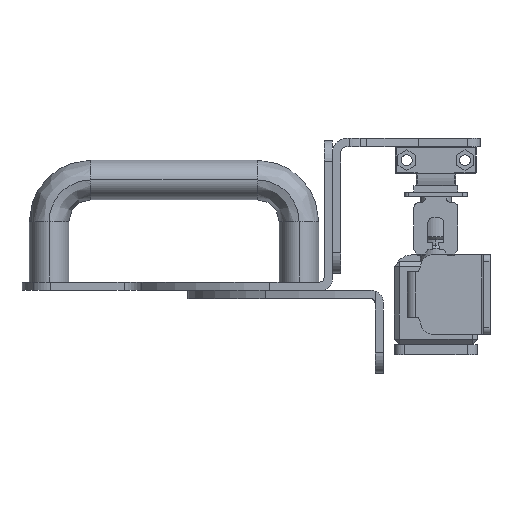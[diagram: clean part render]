
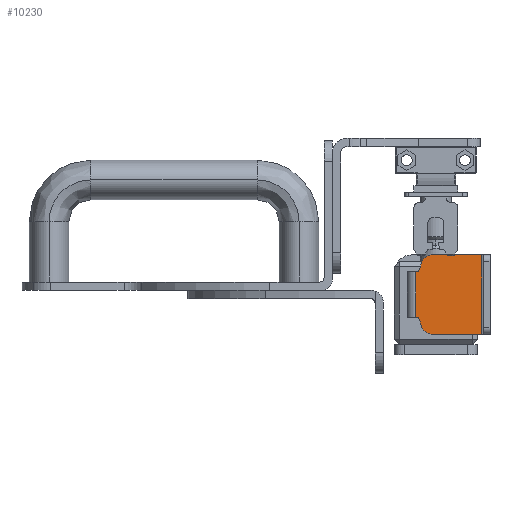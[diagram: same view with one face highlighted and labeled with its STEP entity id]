
A CAD part, front view. The second image highlights one B-rep face of the part: STEP entity #10230.
In plain terms, the highlighted planar face has unit normal (0, -1, 0).
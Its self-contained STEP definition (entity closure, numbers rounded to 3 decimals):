
#7252 = VERTEX_POINT ( 'NONE', #41458 ) ;
#7272 = VERTEX_POINT ( 'NONE', #41478 ) ;
#7329 = VERTEX_POINT ( 'NONE', #41535 ) ;
#7356 = VERTEX_POINT ( 'NONE', #41562 ) ;
#7367 = VERTEX_POINT ( 'NONE', #41573 ) ;
#7375 = VERTEX_POINT ( 'NONE', #41581 ) ;
#7382 = VERTEX_POINT ( 'NONE', #41588 ) ;
#7384 = VERTEX_POINT ( 'NONE', #41590 ) ;
#7401 = VERTEX_POINT ( 'NONE', #41607 ) ;
#7427 = VERTEX_POINT ( 'NONE', #41633 ) ;
#7435 = VERTEX_POINT ( 'NONE', #41641 ) ;
#7467 = VERTEX_POINT ( 'NONE', #41673 ) ;
#8305 = ORIENTED_EDGE ( 'NONE', *, *, #10030, .F. ) ;
#8306 = ORIENTED_EDGE ( 'NONE', *, *, #10032, .T. ) ;
#8307 = ORIENTED_EDGE ( 'NONE', *, *, #9966, .F. ) ;
#8308 = ORIENTED_EDGE ( 'NONE', *, *, #10034, .T. ) ;
#8309 = ORIENTED_EDGE ( 'NONE', *, *, #10036, .F. ) ;
#8310 = ORIENTED_EDGE ( 'NONE', *, *, #10038, .T. ) ;
#8311 = ORIENTED_EDGE ( 'NONE', *, *, #10040, .T. ) ;
#8312 = ORIENTED_EDGE ( 'NONE', *, *, #10042, .T. ) ;
#8313 = ORIENTED_EDGE ( 'NONE', *, *, #10044, .T. ) ;
#8314 = ORIENTED_EDGE ( 'NONE', *, *, #10046, .T. ) ;
#8315 = ORIENTED_EDGE ( 'NONE', *, *, #10048, .F. ) ;
#8316 = ORIENTED_EDGE ( 'NONE', *, *, #10049, .T. ) ;
#9966 = EDGE_CURVE ( 'NONE', #7427, #7382, #21008, .T. ) ;
#10030 = EDGE_CURVE ( 'NONE', #7329, #7272, #15906, .T. ) ;
#10032 = EDGE_CURVE ( 'NONE', #7329, #7382, #15569, .T. ) ;
#10034 = EDGE_CURVE ( 'NONE', #7427, #7252, #15927, .T. ) ;
#10036 = EDGE_CURVE ( 'NONE', #7367, #7252, #15930, .T. ) ;
#10038 = EDGE_CURVE ( 'NONE', #7367, #7467, #15584, .T. ) ;
#10040 = EDGE_CURVE ( 'NONE', #7467, #7384, #15942, .T. ) ;
#10042 = EDGE_CURVE ( 'NONE', #7384, #7435, #15601, .T. ) ;
#10044 = EDGE_CURVE ( 'NONE', #7435, #7401, #15955, .T. ) ;
#10046 = EDGE_CURVE ( 'NONE', #7401, #7356, #15954, .T. ) ;
#10048 = EDGE_CURVE ( 'NONE', #7375, #7356, #15968, .T. ) ;
#10049 = EDGE_CURVE ( 'NONE', #7375, #7272, #15619, .T. ) ;
#10230 = ADVANCED_FACE ( 'NONE', ( #16613 ), #16614, .F. ) ;
#15405 = VECTOR ( 'NONE', #21028, 1000. ) ;
#15564 = VECTOR ( 'NONE', #15917, 1000. ) ;
#15569 = CIRCLE ( 'NONE', #15578, 5. ) ;
#15576 = VECTOR ( 'NONE', #15934, 1000. ) ;
#15578 = AXIS2_PLACEMENT_3D ( 'NONE', #15923, #15924, #15925 ) ;
#15580 = VECTOR ( 'NONE', #15929, 1000. ) ;
#15584 = CIRCLE ( 'NONE', #15594, 5. ) ;
#15589 = VECTOR ( 'NONE', #15946, 1000. ) ;
#15594 = AXIS2_PLACEMENT_3D ( 'NONE', #15939, #15940, #15941 ) ;
#15596 = VECTOR ( 'NONE', #15959, 1000. ) ;
#15601 = CIRCLE ( 'NONE', #15605, 1. ) ;
#15605 = AXIS2_PLACEMENT_3D ( 'NONE', #15951, #15952, #15953 ) ;
#15606 = VECTOR ( 'NONE', #15965, 1000. ) ;
#15612 = VECTOR ( 'NONE', #15972, 1000. ) ;
#15619 = CIRCLE ( 'NONE', #15623, 1. ) ;
#15623 = AXIS2_PLACEMENT_3D ( 'NONE', #15974, #15975, #15976 ) ;
#15906 = LINE ( 'NONE', #15916, #15564 ) ;
#15913 = CARTESIAN_POINT ( 'NONE',  ( -19., -62.3, -15.1 ) ) ;
#15916 = CARTESIAN_POINT ( 'NONE',  ( 76.257, -62.3, 13.952 ) ) ;
#15917 = DIRECTION ( 'NONE',  ( -0.94, 0., -0.342 ) ) ;
#15923 = CARTESIAN_POINT ( 'NONE',  ( 14., -62.3, -3.387 ) ) ;
#15924 = DIRECTION ( 'NONE',  ( 0., -1., 0. ) ) ;
#15925 = DIRECTION ( 'NONE',  ( 0., 0., 1. ) ) ;
#15927 = LINE ( 'NONE', #15928, #15580 ) ;
#15928 = CARTESIAN_POINT ( 'NONE',  ( -19., -62.3, 20.6 ) ) ;
#15929 = DIRECTION ( 'NONE',  ( -1., 0., 0. ) ) ;
#15930 = LINE ( 'NONE', #15913, #15576 ) ;
#15934 = DIRECTION ( 'NONE',  ( 0., 0., 1. ) ) ;
#15938 = CARTESIAN_POINT ( 'NONE',  ( 77.091, -62.3, -41.862 ) ) ;
#15939 = CARTESIAN_POINT ( 'NONE',  ( -14., -62.3, -3.387 ) ) ;
#15940 = DIRECTION ( 'NONE',  ( 0., -1., 0. ) ) ;
#15941 = DIRECTION ( 'NONE',  ( 0., 0., 1. ) ) ;
#15942 = LINE ( 'NONE', #15938, #15589 ) ;
#15946 = DIRECTION ( 'NONE',  ( 0.94, 0., -0.342 ) ) ;
#15950 = CARTESIAN_POINT ( 'NONE',  ( -11., -62.3, -15.1 ) ) ;
#15951 = CARTESIAN_POINT ( 'NONE',  ( -12., -62.3, -10.5 ) ) ;
#15952 = DIRECTION ( 'NONE',  ( 0., 1., 0. ) ) ;
#15953 = DIRECTION ( 'NONE',  ( 0., 0., 1. ) ) ;
#15954 = LINE ( 'NONE', #15964, #15606 ) ;
#15955 = LINE ( 'NONE', #15950, #15596 ) ;
#15959 = DIRECTION ( 'NONE',  ( 0., 0., -1. ) ) ;
#15961 = CARTESIAN_POINT ( 'NONE',  ( 11., -62.3, -15.1 ) ) ;
#15964 = CARTESIAN_POINT ( 'NONE',  ( 86.831, -62.3, -11.1 ) ) ;
#15965 = DIRECTION ( 'NONE',  ( 1., 0., 0. ) ) ;
#15968 = LINE ( 'NONE', #15961, #15612 ) ;
#15972 = DIRECTION ( 'NONE',  ( 0., 0., -1. ) ) ;
#15974 = CARTESIAN_POINT ( 'NONE',  ( 12., -62.3, -10.5 ) ) ;
#15975 = DIRECTION ( 'NONE',  ( 0., 1., 0. ) ) ;
#15976 = DIRECTION ( 'NONE',  ( 0., 0., 1. ) ) ;
#16605 = CARTESIAN_POINT ( 'NONE',  ( 86.831, -62.3, -15.1 ) ) ;
#16613 = FACE_OUTER_BOUND ( 'NONE', #45014, .T. ) ;
#16614 = PLANE ( 'NONE',  #17056 ) ;
#16616 = DIRECTION ( 'NONE',  ( 0., 1., 0. ) ) ;
#16617 = DIRECTION ( 'NONE',  ( 0., 0., 1. ) ) ;
#17056 = AXIS2_PLACEMENT_3D ( 'NONE', #16605, #16616, #16617 ) ;
#21008 = LINE ( 'NONE', #21026, #15405 ) ;
#21026 = CARTESIAN_POINT ( 'NONE',  ( 19., -62.3, -15.1 ) ) ;
#21028 = DIRECTION ( 'NONE',  ( 0., 0., -1. ) ) ;
#41458 = CARTESIAN_POINT ( 'NONE',  ( -19., -62.3, 20.6 ) ) ;
#41478 = CARTESIAN_POINT ( 'NONE',  ( 11.658, -62.3, -9.561 ) ) ;
#41535 = CARTESIAN_POINT ( 'NONE',  ( 15.71, -62.3, -8.086 ) ) ;
#41562 = CARTESIAN_POINT ( 'NONE',  ( 11., -62.3, -11.1 ) ) ;
#41573 = CARTESIAN_POINT ( 'NONE',  ( -19., -62.3, -3.387 ) ) ;
#41581 = CARTESIAN_POINT ( 'NONE',  ( 11., -62.3, -10.5 ) ) ;
#41588 = CARTESIAN_POINT ( 'NONE',  ( 19., -62.3, -3.387 ) ) ;
#41590 = CARTESIAN_POINT ( 'NONE',  ( -11.658, -62.3, -9.561 ) ) ;
#41607 = CARTESIAN_POINT ( 'NONE',  ( -11., -62.3, -11.1 ) ) ;
#41633 = CARTESIAN_POINT ( 'NONE',  ( 19., -62.3, 20.6 ) ) ;
#41641 = CARTESIAN_POINT ( 'NONE',  ( -11., -62.3, -10.5 ) ) ;
#41673 = CARTESIAN_POINT ( 'NONE',  ( -15.71, -62.3, -8.086 ) ) ;
#45014 = EDGE_LOOP ( 'NONE', ( #8305, #8306, #8307, #8308, #8309, #8310, #8311, #8312, #8313, #8314, #8315, #8316 ) ) ;
